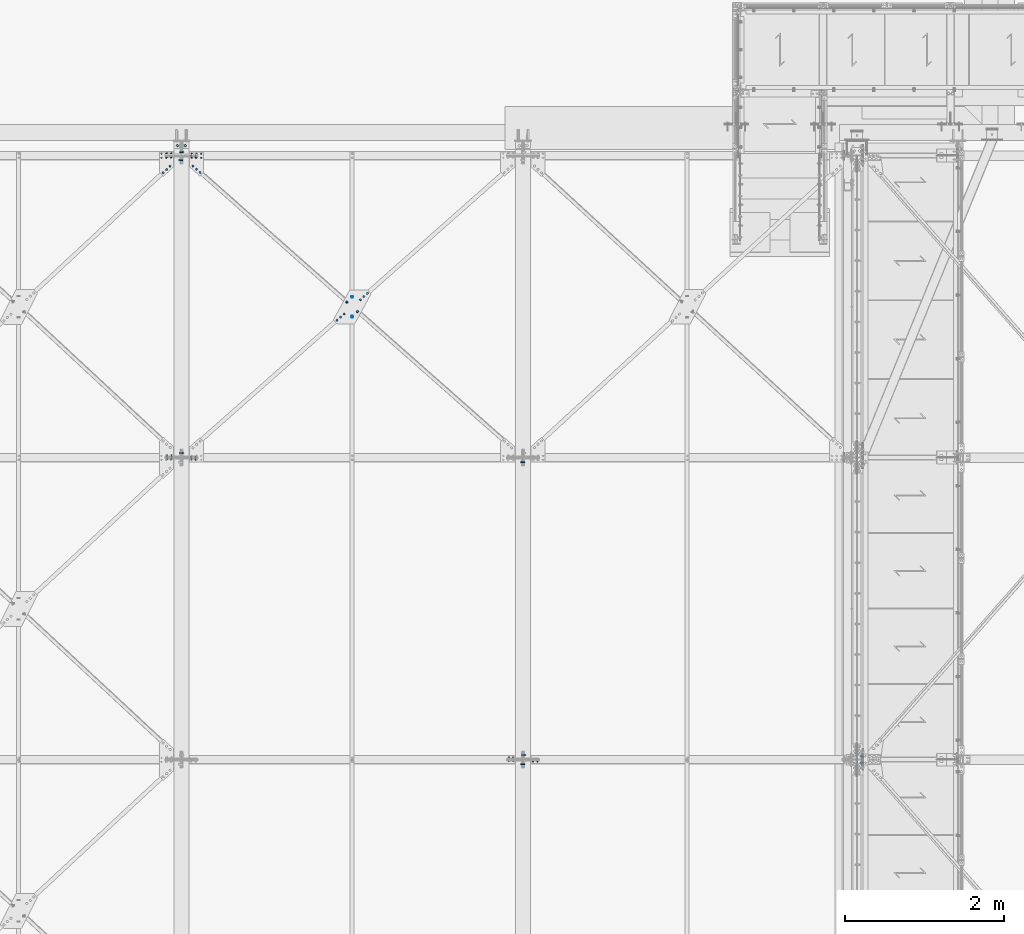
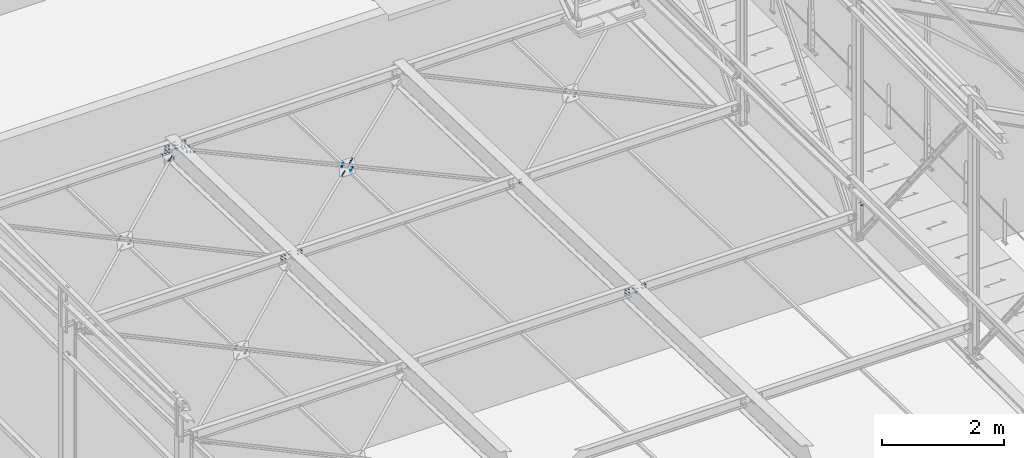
# One storey, part 152 of 362: 22 mechanical fasteners.
"""IFC2X3 building model written with IfcOpenShell, lengths in millimetres."""

from ifc_helpers import new_model, si_unit, frame, frame_2d, origin_with_axes, origin_2d_with_axis, place, context, subcontext, project, spatial, polyline, circle_curve, parameter, trimmed, segment, composite_curve, circle, outline, extrude, source, transform, mapped, material, type_object, element, save


model = new_model("IFC2X3")

# Units and contexts
model_context = context("Model", 3, precision=1e-05, world=origin_with_axes())
body_context = subcontext(model_context, "Body", "Model", "MODEL_VIEW")
ifc_project = project(units=[si_unit("LENGTHUNIT", "METRE", prefix="MILLI"), si_unit("AREAUNIT", "SQUARE_METRE"), si_unit("VOLUMEUNIT", "CUBIC_METRE"), si_unit("MASSUNIT", "GRAM", prefix="KILO"), si_unit("TIMEUNIT", "SECOND"), si_unit("PLANEANGLEUNIT", "RADIAN"), si_unit("SOLIDANGLEUNIT", "STERADIAN"), si_unit("THERMODYNAMICTEMPERATUREUNIT", "DEGREE_CELSIUS"), si_unit("LUMINOUSINTENSITYUNIT", "LUMEN")], contexts=[model_context])

# Site, building, storey
site_placement = place(None, origin_with_axes())
site = spatial("IfcSite", under=ifc_project, at=site_placement, Name="Undefined", CompositionType="ELEMENT")
building_placement = place(site_placement, origin_with_axes())
building = spatial("IfcBuilding", under=site, at=building_placement, Name="Undefined", CompositionType="ELEMENT")
storey_placement = place(building_placement, origin_with_axes())
storey = spatial("IfcBuildingStorey", under=building, at=storey_placement, Name="Undefined", CompositionType="ELEMENT", Elevation=0.0)

# Mechanical fasteners
ifc_material_1 = material(Name="8.8-SB-ZINGUE")
mechanical_fastener_type = type_object("IfcMechanicalFastenerType", Name="Bolt assembly")
shared_shape_1 = source(origin_with_axes(), body_context, "Body", "SweptSolid", [
    extrude(circle(Radius=7.0, at=origin_2d_with_axis()), frame((0.0, -8.40001950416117, 0.0), z_axis=(0.0, 1.0, 0.0), x_axis=(1.0, 0.0, 0.0)), (0.0, 0.0, 1.0), 8.5),
    extrude(circle(Radius=7.0, at=origin_2d_with_axis()), frame((0.0, -0.100011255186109, 0.0), z_axis=(0.0, 1.0, 0.0), x_axis=(1.0, 0.0, 0.0)), (0.0, 0.0, 1.0), 6.1),
    extrude(outline(polyline([(10.39230484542, 0.0), (5.19615242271, 9.00000000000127), (-5.19615242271, 9.00000000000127), (-10.39230484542, 0.0), (-5.19615242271, -9.00000000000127), (5.19615242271, -9.00000000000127), (10.39230484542, 0.0)])), frame((0.0, -16.4200195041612, 0.0), z_axis=(0.0, 1.0, 0.0), x_axis=(1.0, 0.0, 0.0)), (0.0, 0.0, 1.0), 7.92),
    extrude(circle(Radius=6.0, at=origin_2d_with_axis()), frame((0.0, -8.5, 0.0), z_axis=(0.0, 1.0, 0.0), x_axis=(1.0, 0.0, 0.0)), (0.0, 0.0, 1.0), 30.0),
    extrude(outline(polyline([(11.5008173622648, 0.0), (5.7504086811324, 9.96000000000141), (-5.7504086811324, 9.96000000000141), (-11.5008173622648, 0.0), (-5.7504086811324, -9.96000000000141), (5.7504086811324, -9.96000000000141), (11.5008173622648, 0.0)])), frame((0.0, 6.0, 0.0), z_axis=(0.0, 1.0, 0.0), x_axis=(1.0, 0.0, 0.0)), (0.0, 0.0, 1.0), 7.92),
])
mechanical_fastener_1_placement = place(storey_placement, frame((4310.0000069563, 15196.8588775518, 7372.32065103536), z_axis=(3.14103090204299e-11, 0.999506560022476, -0.0314107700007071), x_axis=(1.0, 0.0, 0.0)))
element("IfcMechanicalFastener", 1, at=mechanical_fastener_1_placement, inside=storey, type_object=mechanical_fastener_type, material=ifc_material_1, Name="Bolt assembly", NominalDiameter=12.0, NominalLength=30.0, context=body_context, shape_type="MappedRepresentation", body=[
    mapped(shared_shape_1, transform((0.0, 0.0, 25.0))),
    mapped(shared_shape_1, transform((60.00000000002, -1.00044417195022e-11, 24.9999999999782))),
    mapped(shared_shape_1, transform((120.00000000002, -1.90993887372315e-11, 24.9999999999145))),
    mapped(shared_shape_1, transform((0.0, 0.0, -25.0))),
    mapped(shared_shape_1, transform((59.9999999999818, -8.18545231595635e-12, -25.0000000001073))),
    mapped(shared_shape_1, transform((119.999999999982, -1.72803993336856e-11, -25.0000000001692))),
])
mechanical_fastener_2_placement = place(storey_placement, frame((4049.9999930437, 15196.8588775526, 7372.32065102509), z_axis=(0.0, -0.999506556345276, 0.031410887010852), x_axis=(-1.0, 0.0, 0.0)))
element("IfcMechanicalFastener", 2, at=mechanical_fastener_2_placement, inside=storey, type_object=mechanical_fastener_type, material=ifc_material_1, Name="Bolt assembly", NominalDiameter=12.0, NominalLength=30.0, context=body_context, shape_type="MappedRepresentation", body=[
    mapped(shared_shape_1, transform((0.0, 0.0, -25.0))),
    mapped(shared_shape_1, transform((59.9999999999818, -8.18545231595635e-12, -25.0000000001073))),
    mapped(shared_shape_1, transform((119.999999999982, -1.72803993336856e-11, -25.0000000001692))),
    mapped(shared_shape_1, transform((0.0, 0.0, 25.0))),
    mapped(shared_shape_1, transform((60.00000000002, -1.00044417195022e-11, 24.9999999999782))),
    mapped(shared_shape_1, transform((120.00000000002, -1.90993887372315e-11, 24.9999999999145))),
])
shared_shape_2 = source(origin_with_axes(), body_context, "Body", "SweptSolid", [
    extrude(circle(Radius=9.0, at=origin_2d_with_axis()), frame((0.0, -4.90436916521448, 0.0), z_axis=(0.0, 1.0, 0.0), x_axis=(1.0, 0.0, 0.0)), (0.0, 0.0, 1.0), 5.0),
    extrude(circle(Radius=9.0, at=origin_2d_with_axis()), frame((0.0, -0.100011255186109, 0.0), z_axis=(0.0, 1.0, 0.0), x_axis=(1.0, 0.0, 0.0)), (0.0, 0.0, 1.0), 6.1),
    extrude(outline(polyline([(13.85640646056, 0.0), (6.92820323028, 12.0000000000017), (-6.92820323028, 12.0000000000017), (-13.85640646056, 0.0), (-6.92820323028, -12.0000000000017), (6.92820323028, -12.0000000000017), (13.85640646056, 0.0)])), frame((0.0, -15.5643691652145, 0.0), z_axis=(0.0, 1.0, 0.0), x_axis=(1.0, 0.0, 0.0)), (0.0, 0.0, 1.0), 10.56),
    extrude(circle(Radius=8.0, at=origin_2d_with_axis()), frame((0.0, -5.00436916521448, 0.0), z_axis=(0.0, 1.0, 0.0), x_axis=(1.0, 0.0, 0.0)), (0.0, 0.0, 1.0), 30.0),
    extrude(outline(polyline([(15.3344231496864, 0.0), (7.6672115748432, 13.2800000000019), (-7.6672115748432, 13.2800000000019), (-15.3344231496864, 0.0), (-7.6672115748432, -13.2800000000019), (7.6672115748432, -13.2800000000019), (15.3344231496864, 0.0)])), frame((0.0, 6.0, 0.0), z_axis=(0.0, 1.0, 0.0), x_axis=(1.0, 0.0, 0.0)), (0.0, 0.0, 1.0), 10.56),
])
mechanical_fastener_3_placement = place(storey_placement, frame((4326.09147071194, 15067.755519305, 7376.37794684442), z_axis=(0.662411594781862, 0.748770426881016, -0.023531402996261), x_axis=(0.749140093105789, -0.662084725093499, 0.0208071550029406)))
element("IfcMechanicalFastener", 3, at=mechanical_fastener_3_placement, inside=storey, type_object=mechanical_fastener_type, material=ifc_material_1, Name="Bolt assembly", NominalDiameter=16.0, NominalLength=30.0, context=body_context, shape_type="MappedRepresentation", body=[
    mapped(shared_shape_2, transform((0.0, 0.0, 0.0))),
    mapped(shared_shape_2, transform((60.0, 0.0, 0.0))),
    mapped(shared_shape_2, transform((120.0, 0.0, 0.0))),
])
shared_shape_3 = source(origin_with_axes(), body_context, "Body", "SweptSolid", [
    extrude(circle(Radius=9.0, at=origin_2d_with_axis()), frame((0.0, 5.90148125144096, 0.0), z_axis=(0.0, 1.0, 0.0), x_axis=(1.0, 0.0, 0.0)), (0.0, 0.0, 1.0), 5.1),
    extrude(circle(Radius=9.0, at=origin_2d_with_axis()), frame((0.0, 0.1, 0.0), z_axis=(0.0, 1.0, 0.0), x_axis=(1.0, 0.0, 0.0)), (0.0, 0.0, 1.0), 6.0),
    extrude(outline(polyline([(13.85640646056, 0.0), (6.92820323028, 12.0000000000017), (-6.92820323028, 12.0000000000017), (-13.85640646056, 0.0), (-6.92820323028, -12.0000000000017), (6.92820323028, -12.0000000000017), (13.85640646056, 0.0)])), frame((0.0, -10.5600019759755, 0.0), z_axis=(0.0, 1.0, 0.0), x_axis=(1.0, 0.0, 0.0)), (0.0, 0.0, 1.0), 10.56),
    extrude(circle(Radius=8.0, at=origin_2d_with_axis()), frame((0.0, 0.0, 0.0), z_axis=(0.0, 1.0, 0.0), x_axis=(1.0, 0.0, 0.0)), (0.0, 0.0, 1.0), 30.0),
    extrude(outline(polyline([(15.3344231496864, 0.0), (7.6672115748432, 13.2800000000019), (-7.6672115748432, 13.2800000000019), (-15.3344231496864, 0.0), (-7.6672115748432, -13.2800000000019), (7.6672115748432, -13.2800000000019), (15.3344231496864, 0.0)])), frame((0.0, 11.0014812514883, 0.0), z_axis=(0.0, 1.0, 0.0), x_axis=(1.0, 0.0, 0.0)), (0.0, 0.0, 1.0), 10.56),
])
mechanical_fastener_4_placement = place(storey_placement, frame((6228.86255208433, 13207.4823383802, 7434.84024172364), z_axis=(0.662381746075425, -0.748796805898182, 0.0235322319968), x_axis=(-0.749166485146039, -0.662054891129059, 0.0208062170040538)))
element("IfcMechanicalFastener", 4, at=mechanical_fastener_4_placement, inside=storey, type_object=mechanical_fastener_type, material=ifc_material_1, Name="Bolt assembly", NominalDiameter=16.0, NominalLength=30.0, context=body_context, shape_type="MappedRepresentation", body=[
    mapped(shared_shape_3, transform((0.0, 0.0, 0.0))),
    mapped(shared_shape_3, transform((60.0, 0.0, 0.0))),
    mapped(shared_shape_3, transform((120.0, 0.0, 0.0))),
])
shared_shape_4 = source(origin_with_axes(), body_context, "Body", "SweptSolid", [
    extrude(circle(Radius=9.0, at=origin_2d_with_axis()), frame((0.0, 5.90108949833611, 0.0), z_axis=(0.0, 1.0, 0.0), x_axis=(1.0, 0.0, 0.0)), (0.0, 0.0, 1.0), 5.1),
    extrude(circle(Radius=9.0, at=origin_2d_with_axis()), frame((0.0, 0.1, 0.0), z_axis=(0.0, 1.0, 0.0), x_axis=(1.0, 0.0, 0.0)), (0.0, 0.0, 1.0), 6.0),
    extrude(outline(polyline([(13.85640646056, 0.0), (6.92820323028, 12.0000000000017), (-6.92820323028, 12.0000000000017), (-13.85640646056, 0.0), (-6.92820323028, -12.0000000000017), (6.92820323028, -12.0000000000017), (13.85640646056, 0.0)])), frame((0.0, -10.5600019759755, 0.0), z_axis=(0.0, 1.0, 0.0), x_axis=(1.0, 0.0, 0.0)), (0.0, 0.0, 1.0), 10.56),
    extrude(circle(Radius=8.0, at=origin_2d_with_axis()), frame((0.0, 0.0, 0.0), z_axis=(0.0, 1.0, 0.0), x_axis=(1.0, 0.0, 0.0)), (0.0, 0.0, 1.0), 30.0),
    extrude(outline(polyline([(15.3344231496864, 0.0), (7.6672115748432, 13.2800000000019), (-7.6672115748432, 13.2800000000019), (-15.3344231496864, 0.0), (-7.6672115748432, -13.2800000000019), (7.6672115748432, -13.2800000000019), (15.3344231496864, 0.0)])), frame((0.0, 11.0010894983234, 0.0), z_axis=(0.0, 1.0, 0.0), x_axis=(1.0, 0.0, 0.0)), (0.0, 0.0, 1.0), 10.56),
])
mechanical_fastener_5_placement = place(storey_placement, frame((6431.13752766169, 13386.2371311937, 7429.22256389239), z_axis=(-0.662381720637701, 0.748796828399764, -0.0235322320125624), x_axis=(0.749166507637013, 0.66205486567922, -0.0208062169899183)))
element("IfcMechanicalFastener", 5, at=mechanical_fastener_5_placement, inside=storey, type_object=mechanical_fastener_type, material=ifc_material_1, Name="Bolt assembly", NominalDiameter=16.0, NominalLength=30.0, context=body_context, shape_type="MappedRepresentation", body=[
    mapped(shared_shape_4, transform((0.0, 0.0, 0.0))),
    mapped(shared_shape_4, transform((60.0, 0.0, 0.0))),
    mapped(shared_shape_4, transform((120.0, 0.0, 0.0))),
])
shared_shape_5 = source(origin_with_axes(), body_context, "Body", "SweptSolid", [
    extrude(circle(Radius=9.0, at=origin_2d_with_axis()), frame((0.0, -4.90044380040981, 0.0), z_axis=(0.0, 1.0, 0.0), x_axis=(1.0, 0.0, 0.0)), (0.0, 0.0, 1.0), 5.0),
    extrude(circle(Radius=9.0, at=origin_2d_with_axis()), frame((0.0, -0.100011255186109, 0.0), z_axis=(0.0, 1.0, 0.0), x_axis=(1.0, 0.0, 0.0)), (0.0, 0.0, 1.0), 6.1),
    extrude(outline(polyline([(13.85640646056, 0.0), (6.92820323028, 12.0000000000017), (-6.92820323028, 12.0000000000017), (-13.85640646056, 0.0), (-6.92820323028, -12.0000000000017), (6.92820323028, -12.0000000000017), (13.85640646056, 0.0)])), frame((0.0, -15.5604438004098, 0.0), z_axis=(0.0, 1.0, 0.0), x_axis=(1.0, 0.0, 0.0)), (0.0, 0.0, 1.0), 10.56),
    extrude(circle(Radius=8.0, at=origin_2d_with_axis()), frame((0.0, -5.00044380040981, 0.0), z_axis=(0.0, 1.0, 0.0), x_axis=(1.0, 0.0, 0.0)), (0.0, 0.0, 1.0), 30.0),
    extrude(outline(polyline([(15.3344231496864, 0.0), (7.6672115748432, 13.2800000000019), (-7.6672115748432, 13.2800000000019), (-15.3344231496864, 0.0), (-7.6672115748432, -13.2800000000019), (7.6672115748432, -13.2800000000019), (15.3344231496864, 0.0)])), frame((0.0, 6.0, 0.0), z_axis=(0.0, 1.0, 0.0), x_axis=(1.0, 0.0, 0.0)), (0.0, 0.0, 1.0), 10.56),
])
mechanical_fastener_6_placement = place(storey_placement, frame((6330.00000157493, 13296.858552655, 7432.03143995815), z_axis=(-0.749102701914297, 0.662126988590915, -0.0208084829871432), x_axis=(0.662453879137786, 0.748733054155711, -0.0235302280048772)))
element("IfcMechanicalFastener", 6, at=mechanical_fastener_6_placement, inside=storey, type_object=mechanical_fastener_type, material=ifc_material_1, Name="Bolt assembly", NominalDiameter=16.0, NominalLength=30.0, context=body_context, shape_type="MappedRepresentation", body=[
    mapped(shared_shape_5, transform((-8.00355337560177e-11, 1.57342583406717e-10, -90.000000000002))),
    mapped(shared_shape_5, transform((8.36735125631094e-11, -1.5825207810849e-10, 90.0))),
])
shared_shape_6 = source(origin_with_axes(), body_context, "Body", "SweptSolid", [
    extrude(circle(Radius=7.0, at=origin_2d_with_axis()), frame((0.0, -0.0999426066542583, 0.0), z_axis=(0.0, 1.0, 0.0), x_axis=(1.0, 0.0, 0.0)), (0.0, 0.0, 1.0), 5.1),
    extrude(circle(Radius=7.0, at=origin_2d_with_axis()), frame((0.0, 0.100057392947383, 0.0), z_axis=(0.0, 1.0, 0.0), x_axis=(1.0, 0.0, 0.0)), (0.0, 0.0, 1.0), 6.0),
    extrude(outline(polyline([(10.39230484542, 0.0), (5.19615242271, 9.00000000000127), (-5.19615242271, 9.00000000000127), (-10.39230484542, 0.0), (-5.19615242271, -9.00000000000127), (5.19615242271, -9.00000000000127), (10.39230484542, 0.0)])), frame((0.0, -7.91994260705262, 0.0), z_axis=(0.0, 1.0, 0.0), x_axis=(1.0, 0.0, 0.0)), (0.0, 0.0, 1.0), 7.92),
    extrude(circle(Radius=6.0, at=origin_2d_with_axis()), frame((0.0, 6.26397177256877e-05, 0.0), z_axis=(0.0, 1.0, 0.0), x_axis=(1.0, 0.0, 0.0)), (0.0, 0.0, 1.0), 30.0),
    extrude(outline(polyline([(11.5008173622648, 0.0), (5.7504086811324, 9.96000000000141), (-5.7504086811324, 9.96000000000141), (-11.5008173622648, 0.0), (-5.7504086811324, -9.96000000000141), (5.7504086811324, -9.96000000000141), (11.5008173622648, 0.0)])), frame((0.0, 6.00005739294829, 0.0), z_axis=(0.0, 1.0, 0.0), x_axis=(1.0, 0.0, 0.0)), (0.0, 0.0, 1.0), 7.92),
])
mechanical_fastener_7_placement = place(storey_placement, frame((6330.00007402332, 13296.8585640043, 7432.03143957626), z_axis=(0.0, -0.999506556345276, 0.031410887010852), x_axis=(-1.0, 0.0, 0.0)))
element("IfcMechanicalFastener", 7, at=mechanical_fastener_7_placement, inside=storey, type_object=mechanical_fastener_type, material=ifc_material_1, Name="Bolt assembly", NominalDiameter=12.0, NominalLength=30.0, context=body_context, shape_type="MappedRepresentation", body=[
    mapped(shared_shape_6, transform((0.0, -1.17324816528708e-10, -124.999999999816))),
    mapped(shared_shape_6, transform((0.0, 1.17324816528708e-10, 124.999999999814))),
])
shared_shape_7 = source(origin_with_axes(), body_context, "Body", "SweptSolid", [
    extrude(circle(Radius=9.0, at=origin_2d_with_axis()), frame((0.0, 2.90185310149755, 0.0), z_axis=(0.0, 1.0, 0.0), x_axis=(1.0, 0.0, 0.0)), (0.0, 0.0, 1.0), 5.1),
    extrude(circle(Radius=9.0, at=origin_2d_with_axis()), frame((0.0, -2.90345384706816, 0.0), z_axis=(0.0, 1.0, 0.0), x_axis=(1.0, 0.0, 0.0)), (0.0, 0.0, 1.0), 6.0),
    extrude(outline(polyline([(13.85640646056, 0.0), (6.92820323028, 12.0000000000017), (-6.92820323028, 12.0000000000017), (-13.85640646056, 0.0), (-6.92820323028, -12.0000000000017), (6.92820323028, -12.0000000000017), (13.85640646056, 0.0)])), frame((0.0, -13.5634538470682, 0.0), z_axis=(0.0, 1.0, 0.0), x_axis=(1.0, 0.0, 0.0)), (0.0, 0.0, 1.0), 10.56),
    extrude(circle(Radius=8.0, at=origin_2d_with_axis()), frame((0.0, -3.00345384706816, 0.0), z_axis=(0.0, 1.0, 0.0), x_axis=(1.0, 0.0, 0.0)), (0.0, 0.0, 1.0), 30.0),
    extrude(outline(polyline([(15.3344231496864, 0.0), (7.6672115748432, 13.2800000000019), (-7.6672115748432, 13.2800000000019), (-15.3344231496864, 0.0), (-7.6672115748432, -13.2800000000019), (7.6672115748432, -13.2800000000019), (15.3344231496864, 0.0)])), frame((0.0, 8.00185310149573, 0.0), z_axis=(0.0, 1.0, 0.0), x_axis=(1.0, 0.0, 0.0)), (0.0, 0.0, 1.0), 10.56),
])
mechanical_fastener_8_placement = place(storey_placement, frame((4039.03577355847, 15065.799809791, 7373.43447174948), z_axis=(0.68083834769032, -0.732072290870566, 0.0230066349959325), x_axis=(-0.732433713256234, -0.680502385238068, 0.0213859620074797)))
element("IfcMechanicalFastener", 8, at=mechanical_fastener_8_placement, inside=storey, type_object=mechanical_fastener_type, material=ifc_material_1, Name="Bolt assembly", NominalDiameter=16.0, NominalLength=30.0, context=body_context, shape_type="MappedRepresentation", body=[
    mapped(shared_shape_7, transform((0.0, 0.0, 0.0))),
    mapped(shared_shape_7, transform((60.0, 0.0, 0.0))),
    mapped(shared_shape_7, transform((120.0, 0.0, 0.0))),
])
shared_shape_8 = source(origin_with_axes(), body_context, "Body", "SweptSolid", [
    extrude(circle(Radius=7.0, at=origin_2d_with_axis()), frame((0.0, -4.69999899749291, 0.0), z_axis=(0.0, 1.0, 0.0), x_axis=(1.0, 0.0, 0.0)), (0.0, 0.0, 1.0), 9.4),
    extrude(circle(Radius=7.0, at=origin_2d_with_axis()), frame((0.0, 4.9000000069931, 0.0), z_axis=(0.0, 1.0, 0.0), x_axis=(1.0, 0.0, 0.0)), (0.0, 0.0, 1.0), 10.1),
    extrude(circle(Radius=7.0, at=origin_2d_with_axis()), frame((0.0, -14.899999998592, 0.0), z_axis=(0.0, 1.0, 0.0), x_axis=(1.0, 0.0, 0.0)), (0.0, 0.0, 1.0), 10.0),
    extrude(outline(polyline([(10.39230484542, 0.0), (5.19615242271, 9.00000000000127), (-5.19615242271, 9.00000000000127), (-10.39230484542, 0.0), (-5.19615242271, -9.00000000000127), (5.19615242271, -9.00000000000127), (10.39230484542, 0.0)])), frame((0.0, -22.919999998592, 0.0), z_axis=(0.0, 1.0, 0.0), x_axis=(1.0, 0.0, 0.0)), (0.0, 0.0, 1.0), 7.92),
    extrude(circle(Radius=6.0, at=origin_2d_with_axis()), frame((0.0, -14.999999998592, 0.0), z_axis=(0.0, 1.0, 0.0), x_axis=(1.0, 0.0, 0.0)), (0.0, 0.0, 1.0), 50.0),
    extrude(outline(polyline([(11.5008173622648, 0.0), (5.7504086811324, 9.96000000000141), (-5.7504086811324, 9.96000000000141), (-11.5008173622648, 0.0), (-5.7504086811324, -9.96000000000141), (5.7504086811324, -9.96000000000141), (11.5008173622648, 0.0)])), frame((0.0, 15.0000000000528, 0.0), z_axis=(0.0, 1.0, 0.0), x_axis=(1.0, 0.0, 0.0)), (0.0, 0.0, 1.0), 7.92),
])
for number, where, z_axis, x_axis, name in (
    (9, (4179.9999991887, 15242.9795174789, 7470.91528481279), (0.0, 0.0314148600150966, 0.999506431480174), (0.0, -0.999506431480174, 0.0314148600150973), "Bolt assembly"),
    (10, (8480.0, 7657.97222760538, 7709.28733750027), (7.58071938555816e-11, 0.0314107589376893, 0.999506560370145), (0.0, -0.999506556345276, 0.031410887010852), "Bolt assembly"),
    (11, (4180.0, 11457.9727415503, 7589.86576380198), (7.58071938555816e-11, 0.0314107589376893, 0.999506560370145), (0.0, -0.999506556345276, 0.031410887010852), "Bolt assembly"),
):
    element("IfcMechanicalFastener", number, at=place(storey_placement, frame(where, z_axis=z_axis, x_axis=x_axis)), inside=storey, type_object=mechanical_fastener_type, material=ifc_material_1, Name=name, NominalDiameter=12.0, NominalLength=50.0, context=body_context, shape_type="MappedRepresentation", body=[
        mapped(shared_shape_8, transform((0.0, 0.0, -30.0))),
        mapped(shared_shape_8, transform((0.0, 0.0, 30.0))),
    ])
shared_shape_9 = source(origin_with_axes(), body_context, "Body", "SweptSolid", [
    extrude(circle(Radius=7.0, at=origin_2d_with_axis()), frame((0.0, -5.60090332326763, 0.0), z_axis=(0.0, 1.0, 0.0), x_axis=(1.0, 0.0, 0.0)), (0.0, 0.0, 1.0), 5.6),
    extrude(circle(Radius=7.0, at=origin_2d_with_axis()), frame((0.0, -15.7008623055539, 0.0), z_axis=(0.0, 1.0, 0.0), x_axis=(1.0, 0.0, 0.0)), (0.0, 0.0, 1.0), 10.0),
    extrude(circle(Radius=7.0, at=origin_2d_with_axis()), frame((0.0, 0.1, 0.0), z_axis=(0.0, 1.0, 0.0), x_axis=(1.0, 0.0, 0.0)), (0.0, 0.0, 1.0), 10.1),
    extrude(outline(polyline([(10.39230484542, 0.0), (5.19615242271, 9.00000000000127), (-5.19615242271, 9.00000000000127), (-10.39230484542, 0.0), (-5.19615242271, -9.00000000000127), (5.19615242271, -9.00000000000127), (10.39230484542, 0.0)])), frame((0.0, -23.7208623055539, 0.0), z_axis=(0.0, 1.0, 0.0), x_axis=(1.0, 0.0, 0.0)), (0.0, 0.0, 1.0), 7.92),
    extrude(circle(Radius=6.0, at=origin_2d_with_axis()), frame((0.0, -15.8008623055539, 0.0), z_axis=(0.0, 1.0, 0.0), x_axis=(1.0, 0.0, 0.0)), (0.0, 0.0, 1.0), 50.0),
    extrude(outline(polyline([(11.5008173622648, 0.0), (5.7504086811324, 9.96000000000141), (-5.7504086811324, 9.96000000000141), (-11.5008173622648, 0.0), (-5.7504086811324, -9.96000000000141), (5.7504086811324, -9.96000000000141), (11.5008173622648, 0.0)])), frame((0.0, 10.1999997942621, 0.0), z_axis=(0.0, 1.0, 0.0), x_axis=(1.0, 0.0, 0.0)), (0.0, 0.0, 1.0), 7.92),
])
for number, where, z_axis, x_axis, name in (
    (12, (3999.99999918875, 15202.7993579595, 7472.17813040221), (7.58071938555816e-11, 0.0314107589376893, 0.999506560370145), (1.0, 0.0, 0.0), "Bolt assembly"),
    (13, (8300.00000000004, 7602.79946645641, 7711.02124208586), (7.58071938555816e-11, 0.0314107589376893, 0.999506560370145), (1.0, 0.0, 0.0), "Bolt assembly"),
    (14, (4000.00000000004, 11402.7999804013, 7591.59966838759), (7.58071938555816e-11, 0.0314107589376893, 0.999506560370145), (1.0, 0.0, 0.0), "Bolt assembly"),
):
    element("IfcMechanicalFastener", number, at=place(storey_placement, frame(where, z_axis=z_axis, x_axis=x_axis)), inside=storey, type_object=mechanical_fastener_type, material=ifc_material_1, Name=name, NominalDiameter=12.0, NominalLength=50.0, context=body_context, shape_type="MappedRepresentation", body=[
        mapped(shared_shape_9, transform((0.0, 0.0, -30.0))),
        mapped(shared_shape_9, transform((55.0000000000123, 3.45607986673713e-11, -30.0000000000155))),
        mapped(shared_shape_9, transform((0.0, 0.0, 30.0))),
        mapped(shared_shape_9, transform((54.9999999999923, 3.45607986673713e-11, 29.9999999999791))),
    ])
shared_shape_10 = source(origin_with_axes(), body_context, "Body", "SweptSolid", [
    extrude(circle(Radius=7.0, at=origin_2d_with_axis()), frame((0.0, -4.69999899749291, 0.0), z_axis=(0.0, 1.0, 0.0), x_axis=(1.0, 0.0, 0.0)), (0.0, 0.0, 1.0), 9.4),
    extrude(circle(Radius=7.0, at=origin_2d_with_axis()), frame((0.0, -14.899999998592, 0.0), z_axis=(0.0, 1.0, 0.0), x_axis=(1.0, 0.0, 0.0)), (0.0, 0.0, 1.0), 10.0),
    extrude(circle(Radius=7.0, at=origin_2d_with_axis()), frame((0.0, 4.9000000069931, 0.0), z_axis=(0.0, 1.0, 0.0), x_axis=(1.0, 0.0, 0.0)), (0.0, 0.0, 1.0), 10.1),
    extrude(outline(polyline([(10.39230484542, 0.0), (5.19615242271, 9.00000000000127), (-5.19615242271, 9.00000000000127), (-10.39230484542, 0.0), (-5.19615242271, -9.00000000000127), (5.19615242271, -9.00000000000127), (10.39230484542, 0.0)])), frame((0.0, -22.919999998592, 0.0), z_axis=(0.0, 1.0, 0.0), x_axis=(1.0, 0.0, 0.0)), (0.0, 0.0, 1.0), 7.92),
    extrude(circle(Radius=6.0, at=origin_2d_with_axis()), frame((0.0, -14.999999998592, 0.0), z_axis=(0.0, 1.0, 0.0), x_axis=(1.0, 0.0, 0.0)), (0.0, 0.0, 1.0), 50.0),
    extrude(outline(polyline([(11.5008173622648, 0.0), (5.7504086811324, 9.96000000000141), (-5.7504086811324, 9.96000000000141), (-11.5008173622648, 0.0), (-5.7504086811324, -9.96000000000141), (5.7504086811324, -9.96000000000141), (11.5008173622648, 0.0)])), frame((0.0, 15.0000000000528, 0.0), z_axis=(0.0, 1.0, 0.0), x_axis=(1.0, 0.0, 0.0)), (0.0, 0.0, 1.0), 7.92),
])
for number, where, z_axis, x_axis, name in (
    (15, (4179.9999991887, 15142.0284979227, 7474.08795419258), (7.58071938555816e-11, 0.0314107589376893, 0.999506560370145), (3.14103090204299e-11, 0.999506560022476, -0.0314107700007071), "Bolt assembly"),
    (16, (8480.0, 11342.0291203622, 7593.50949217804), (7.58071938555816e-11, 0.0314107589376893, 0.999506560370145), (3.14103090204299e-11, 0.999506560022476, -0.0314107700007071), "Bolt assembly"),
    (17, (8480.0, 7542.02860641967, 7712.93106587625), (7.58071938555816e-11, 0.0314107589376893, 0.999506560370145), (3.14103090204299e-11, 0.999506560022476, -0.0314107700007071), "Bolt assembly"),
):
    element("IfcMechanicalFastener", number, at=place(storey_placement, frame(where, z_axis=z_axis, x_axis=x_axis)), inside=storey, type_object=mechanical_fastener_type, material=ifc_material_1, Name=name, NominalDiameter=12.0, NominalLength=50.0, context=body_context, shape_type="MappedRepresentation", body=[
        mapped(shared_shape_10, transform((0.0, 0.0, -30.0))),
        mapped(shared_shape_10, transform((0.0, 0.0, 30.0))),
    ])
shared_shape_11 = source(origin_with_axes(), body_context, "Body", "SweptSolid", [
    extrude(circle(Radius=7.0, at=origin_2d_with_axis()), frame((0.0, -5.59995888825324, 0.0), z_axis=(0.0, 1.0, 0.0), x_axis=(1.0, 0.0, 0.0)), (0.0, 0.0, 1.0), 5.6),
    extrude(circle(Radius=7.0, at=origin_2d_with_axis()), frame((0.0, 0.1, 0.0), z_axis=(0.0, 1.0, 0.0), x_axis=(1.0, 0.0, 0.0)), (0.0, 0.0, 1.0), 10.1),
    extrude(circle(Radius=7.0, at=origin_2d_with_axis()), frame((0.0, -15.7008623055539, 0.0), z_axis=(0.0, 1.0, 0.0), x_axis=(1.0, 0.0, 0.0)), (0.0, 0.0, 1.0), 10.0),
    extrude(outline(polyline([(10.39230484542, 0.0), (5.19615242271, 9.00000000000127), (-5.19615242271, 9.00000000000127), (-10.39230484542, 0.0), (-5.19615242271, -9.00000000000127), (5.19615242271, -9.00000000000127), (10.39230484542, 0.0)])), frame((0.0, -23.7208623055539, 0.0), z_axis=(0.0, 1.0, 0.0), x_axis=(1.0, 0.0, 0.0)), (0.0, 0.0, 1.0), 7.92),
    extrude(circle(Radius=6.0, at=origin_2d_with_axis()), frame((0.0, -15.8008623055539, 0.0), z_axis=(0.0, 1.0, 0.0), x_axis=(1.0, 0.0, 0.0)), (0.0, 0.0, 1.0), 50.0),
    extrude(outline(polyline([(11.5008173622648, 0.0), (5.7504086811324, 9.96000000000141), (-5.7504086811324, 9.96000000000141), (-11.5008173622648, 0.0), (-5.7504086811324, -9.96000000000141), (5.7504086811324, -9.96000000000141), (11.5008173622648, 0.0)])), frame((0.0, 10.1999997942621, 0.0), z_axis=(0.0, 1.0, 0.0), x_axis=(1.0, 0.0, 0.0)), (0.0, 0.0, 1.0), 7.92),
])
for number, where, z_axis, x_axis, name in (
    (18, (4359.99999918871, 15197.2012594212, 7472.35406030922), (7.58071938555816e-11, 0.0314107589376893, 0.999506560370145), (-1.0, 0.0, 0.0), "Bolt assembly"),
    (19, (8660.0, 7597.20136791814, 7711.19717199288), (7.58071938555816e-11, 0.0314107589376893, 0.999506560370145), (-1.0, 0.0, 0.0), "Bolt assembly"),
    (20, (4360.0, 11397.201881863, 7591.77559829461), (7.58071938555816e-11, 0.0314107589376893, 0.999506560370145), (-1.0, 0.0, 0.0), "Bolt assembly"),
):
    element("IfcMechanicalFastener", number, at=place(storey_placement, frame(where, z_axis=z_axis, x_axis=x_axis)), inside=storey, type_object=mechanical_fastener_type, material=ifc_material_1, Name=name, NominalDiameter=12.0, NominalLength=50.0, context=body_context, shape_type="MappedRepresentation", body=[
        mapped(shared_shape_11, transform((0.0, 0.0, -30.0))),
        mapped(shared_shape_11, transform((55.0000000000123, 3.45607986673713e-11, -30.0000000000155))),
        mapped(shared_shape_11, transform((0.0, 0.0, 30.0))),
        mapped(shared_shape_11, transform((54.9999999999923, 3.45607986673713e-11, 29.9999999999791))),
    ])
shared_shape_12 = source(origin_with_axes(), body_context, "Body", "SweptSolid", [
    extrude(circle(Radius=7.0, at=origin_2d_with_axis()), frame((0.0, -0.0917710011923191, 0.0), z_axis=(0.0, 1.0, 0.0), x_axis=(1.0, 0.0, 0.0)), (0.0, 0.0, 1.0), 8.6),
    extrude(circle(Radius=7.0, at=origin_2d_with_axis()), frame((0.0, -6.9, 0.0), z_axis=(0.0, 1.0, 0.0), x_axis=(1.0, 0.0, 0.0)), (0.0, 0.0, 1.0), 7.0),
    extrude(outline(polyline([(10.39230484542, 0.0), (5.19615242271, 9.00000000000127), (-5.19615242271, 9.00000000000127), (-10.39230484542, 0.0), (-5.19615242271, -9.00000000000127), (5.19615242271, -9.00000000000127), (10.39230484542, 0.0)])), frame((0.0, -14.92, 0.0), z_axis=(0.0, 1.0, 0.0), x_axis=(1.0, 0.0, 0.0)), (0.0, 0.0, 1.0), 7.92),
    extrude(circle(Radius=6.0, at=origin_2d_with_axis()), frame((0.0, -7.0, 0.0), z_axis=(0.0, 1.0, 0.0), x_axis=(1.0, 0.0, 0.0)), (0.0, 0.0, 1.0), 30.0),
    extrude(outline(polyline([(11.5008173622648, 0.0), (5.7504086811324, 9.96000000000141), (-5.7504086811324, 9.96000000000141), (-11.5008173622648, 0.0), (-5.7504086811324, -9.96000000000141), (5.7504086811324, -9.96000000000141), (11.5008173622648, 0.0)])), frame((0.0, 8.50822899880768, 0.0), z_axis=(0.0, 1.0, 0.0), x_axis=(1.0, 0.0, 0.0)), (0.0, 0.0, 1.0), 7.92),
])
mechanical_fastener_9_placement = place(storey_placement, frame((12746.5082291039, 7599.99999998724, 7910.00000000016), z_axis=(0.0, -1.0, 0.0), x_axis=(0.0, 0.0, 1.0)))
element("IfcMechanicalFastener", 21, at=mechanical_fastener_9_placement, inside=storey, type_object=mechanical_fastener_type, material=ifc_material_1, Name="Bolt assembly", NominalDiameter=12.0, NominalLength=30.0, context=body_context, shape_type="MappedRepresentation", body=[
    mapped(shared_shape_12, transform((0.0, 0.0, -40.0))),
    mapped(shared_shape_12, transform((0.0, 0.0, 40.0))),
])
ifc_material_2 = material(Name="HR10.9")
shared_shape_13 = source(origin_with_axes(), body_context, "Body", "SweptSolid", [
    extrude(circle(Radius=9.0, at=origin_2d_with_axis()), frame((0.0, -14.5000000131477, 0.0), z_axis=(0.0, 1.0, 0.0), x_axis=(1.0, 0.0, 0.0)), (0.0, 0.0, 1.0), 14.6),
    extrude(outline(composite_curve([segment(polyline([(-9.0, 9.0), (9.0, 9.0)]), True, "CONTINUOUS"), segment(trimmed(circle_curve(frame_2d((9.0, 0.0), x_axis=(0.0, 1.0)), 9.0), [parameter(0.0)], [parameter(3.14159265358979)], False, "PARAMETER"), True, "CONTINUOUS"), segment(polyline([(9.0, -9.0), (-9.0, -9.0)]), True, "CONTINUOUS"), segment(trimmed(circle_curve(frame_2d((-9.0, 0.0), x_axis=(0.0, -1.0)), 9.0), [parameter(0.0)], [parameter(3.14159265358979)], False, "PARAMETER"), True, "DISCONTINUOUS")], self_intersect=False)), frame((0.0, -0.100011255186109, 0.0), z_axis=(0.0, 1.0, 0.0), x_axis=(1.0, 0.0, 0.0)), (0.0, 0.0, 1.0), 10.1),
    extrude(outline(polyline([(15.58845726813, 0.0), (7.794228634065, 13.5000000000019), (-7.794228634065, 13.5000000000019), (-15.58845726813, 0.0), (-7.794228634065, -13.5000000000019), (7.794228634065, -13.5000000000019), (15.58845726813, 0.0)])), frame((0.0, -28.6000003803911, 0.0), z_axis=(0.0, 1.0, 0.0), x_axis=(1.0, 0.0, 0.0)), (0.0, 0.0, 1.0), 10.0),
    extrude(circle(Radius=8.0, at=origin_2d_with_axis()), frame((0.0, -18.6000003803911, 0.0), z_axis=(0.0, 1.0, 0.0), x_axis=(1.0, 0.0, 0.0)), (0.0, 0.0, 1.0), 60.0),
    extrude(circle(Radius=15.0, at=origin_2d_with_axis()), frame((0.0, -18.6000003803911, 0.0), z_axis=(0.0, 1.0, 0.0), x_axis=(1.0, 0.0, 0.0)), (0.0, 0.0, 1.0), 4.0),
    extrude(circle(Radius=15.0, at=origin_2d_with_axis()), frame((0.0, 10.0000000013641, 0.0), z_axis=(0.0, 1.0, 0.0), x_axis=(1.0, 0.0, 0.0)), (0.0, 0.0, 1.0), 4.0),
    extrude(outline(polyline([(15.58845726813, 0.0), (7.794228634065, 13.5000000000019), (-7.794228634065, 13.5000000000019), (-15.58845726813, 0.0), (-7.794228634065, -13.5000000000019), (7.794228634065, -13.5000000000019), (15.58845726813, 0.0)])), frame((0.0, 13.9999928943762, 0.0), z_axis=(0.0, 1.0, 0.0), x_axis=(1.0, 0.0, 0.0)), (0.0, 0.0, 1.0), 15.0),
])
mechanical_fastener_10_placement = place(storey_placement, frame((4180.0, 15325.0320735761, 7118.16930849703), z_axis=(-1.0, 0.0, 0.0), x_axis=(3.14103090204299e-11, 0.999506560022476, -0.0314107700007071)))
element("IfcMechanicalFastener", 22, at=mechanical_fastener_10_placement, inside=storey, type_object=mechanical_fastener_type, material=ifc_material_2, Name="Bolt assembly", NominalDiameter=16.0, NominalLength=60.0, context=body_context, shape_type="MappedRepresentation", body=[
    mapped(shared_shape_13, transform((0.0, 0.0, -50.0))),
    mapped(shared_shape_13, transform((0.0, 0.0, 50.0))),
])

save(model, "model.ifc")
